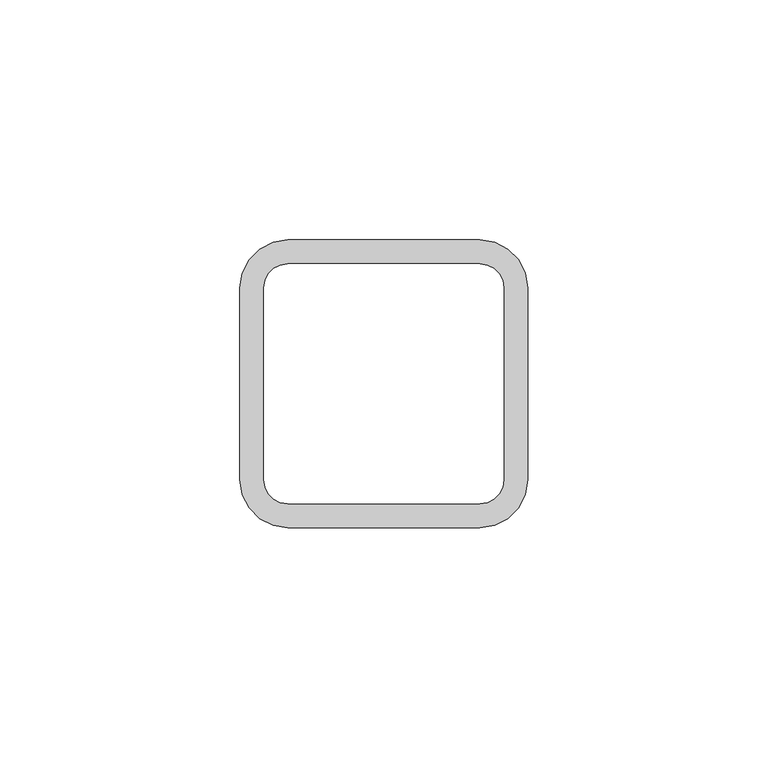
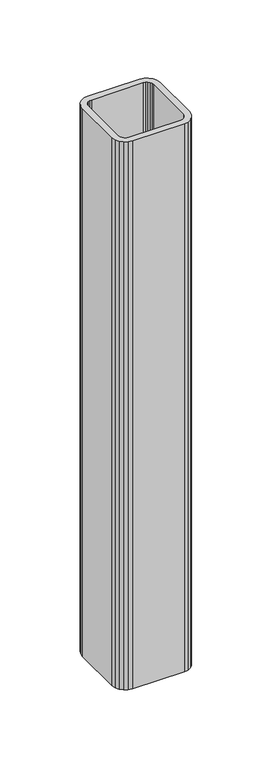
"""IFC4 building model written with IfcOpenShell, lengths in millimetres: beam geometry,  89299 :  89299."""

from ifc_helpers import new_model, si_unit, frame, origin, place, context, project, spatial, polyline, outline, extrude, source, transform, mapped, element, save


def beam_72d9c7e8(model_context):
    return source(origin(), model_context, "Body", "SweptSolid", [
        extrude(outline(polyline([(-100.0000001, -14166.5), (-100.0000001, -14126.5), (-99.5105653, -14123.4098301), (-98.0901701, -14120.6221475), (-95.8778527, -14118.4098301), (-93.0901701, -14116.9894348), (-90.0000001, -14116.5), (-50.0000001, -14116.5), (-46.9098302, -14116.9894348), (-44.1221476, -14118.4098301), (-41.9098302, -14120.6221475), (-40.489435, -14123.4098301), (-40.0000001, -14126.5), (-40.0000001, -14166.5), (-40.489435, -14169.5901699), (-41.9098302, -14172.3778525), (-44.1221476, -14174.5901699), (-46.9098302, -14176.0105652), (-50.0000001, -14176.5), (-90.0000001, -14176.5), (-93.0901701, -14176.0105652), (-95.8778527, -14174.5901699), (-98.0901701, -14172.3778525), (-99.5105653, -14169.5901699), (-100.0000001, -14166.5)]), holes=[polyline([(-90.0000001, -14171.5), (-50.0000001, -14171.5), (-48.4549152, -14171.2552826), (-47.0610739, -14170.545085), (-45.9549152, -14169.4389263), (-45.2447175, -14168.045085), (-45.0000001, -14166.5), (-45.0000001, -14126.5), (-45.2447175, -14124.954915), (-45.9549152, -14123.5610737), (-47.0610739, -14122.454915), (-48.4549152, -14121.7447174), (-50.0000001, -14121.5), (-90.0000001, -14121.5), (-91.5450851, -14121.7447174), (-92.9389264, -14122.454915), (-94.0450851, -14123.5610737), (-94.7552827, -14124.954915), (-95.0000001, -14126.5), (-95.0000001, -14166.5), (-94.7552827, -14168.045085), (-94.0450851, -14169.4389263), (-92.9389264, -14170.545085), (-91.5450851, -14171.2552826), (-90.0000001, -14171.5)])]), frame((0.0, 0.0, 7970.0), z_axis=(0.0, 0.0, 1.0), x_axis=(1.0, 0.0, 0.0)), (0.0, 0.0, 1.0), 447.0),
    ])


if __name__ == "__main__":
    model = new_model("IFC4")
    model_context = context("Model", 3, world=origin())
    ifc_project = project(units=[si_unit("LENGTHUNIT", "METRE", prefix="MILLI")], contexts=[model_context])
    site = spatial("IfcSite", under=ifc_project)
    building = spatial("IfcBuilding", under=site)
    placement = place(None, origin())
    beam_shape = beam_72d9c7e8(model_context)
    element("IfcBeam", 1, ObjectType=" 89299 :  89299", at=placement, inside=building, context=model_context, shape_type="MappedRepresentation", body=[
        mapped(beam_shape, transform((0.0, 0.0, 0.0), x_axis=(1.0, 0.0, 0.0), y_axis=(0.0, 1.0, 0.0), z_axis=(0.0, 0.0, 1.0))),
    ])
    save(model, "model.ifc")
